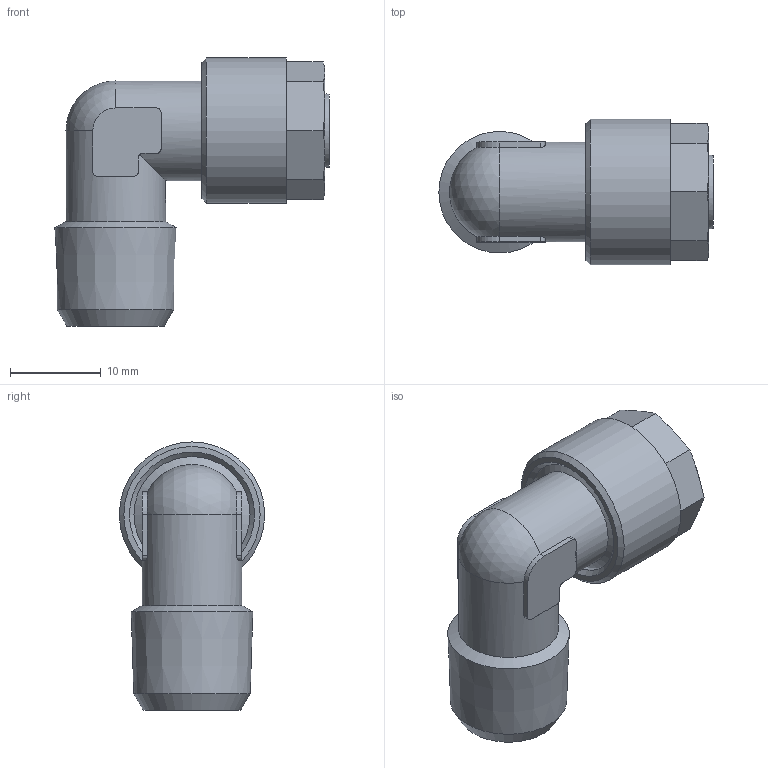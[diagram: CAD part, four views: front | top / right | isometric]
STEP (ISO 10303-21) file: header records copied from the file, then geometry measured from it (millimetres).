
FILE_DESCRIPTION(/* description */ (''),/* implementation_level */ '2;1');
FILE_NAME(/* name */ '11011_305_108_R14_18.07.17',/* time_stamp */ '2017-07-18T14:21:28+02:00',/* author */ (''),/* organization */ (''),/* preprocessor_version */ 'ST-DEVELOPER v16.5',/* originating_system */ 'HiCAD 2016 2102.2 Build 618',/* authorisation */ '');
FILE_SCHEMA (('AUTOMOTIVE_DESIGN { 1 0 10303 214 1 1 1 1 }'));
Length unit declared in the file: millimetre
Products named in the file (3): Root; R11011; 17007
Assembly tree (2 placements, depth 2):
  Root
    R11011
    17007
Bounding box: 30.19 x 16 x 29.5 mm (x, y, z)
Volume: 3909.6 mm3; surface area: 4171.8 mm2
Topology: 2 solids, 2 shells, 79 faces, 193 edges, 120 vertices
Faces by surface type: plane 33, cylinder 23, cone 21, sphere 1, torus 1
Full cylindrical faces by diameter (mm): 6.8 x2, 8 x1, 8.4 x1, 10 x1, 11 x2, 12.773 x1, 14 x1, 16 x1
Entity records: 5440 total; most frequent: CARTESIAN_POINT 2102, DIRECTION 388, PRESENTATION_STYLE_ASSIGNMENT 316, COLOUR_RGB 315, DRAUGHTING_PRE_DEFINED_CURVE_FONT 314, CURVE_STYLE 314, OVER_RIDING_STYLED_ITEM 314, ORIENTED_EDGE 314
